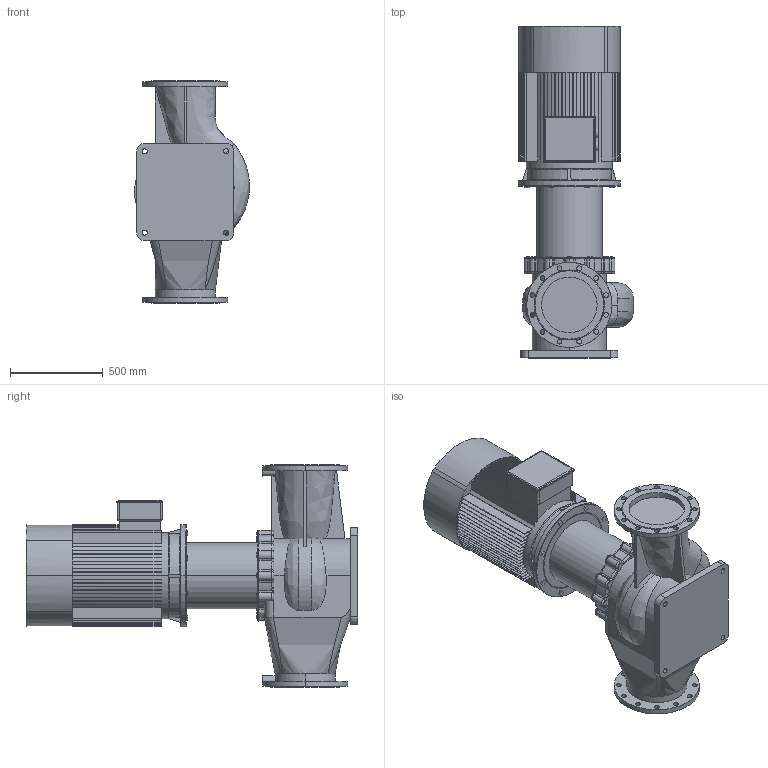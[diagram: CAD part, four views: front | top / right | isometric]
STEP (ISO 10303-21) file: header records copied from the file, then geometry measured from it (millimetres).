
FILE_DESCRIPTION (( 'STEP AP203' ), '1' );
FILE_NAME ('TD300-20_4.STEP', '2022-05-02T18:18:35', ( '' ), ( '' ), 'SwSTEP 2.0', 'SolidWorks 2019', '' );
FILE_SCHEMA (( 'CONFIG_CONTROL_DESIGN' ));
Length unit declared in the file: millimetre
Products named in the file (4): TD300-20_4; Fon_300_TD300-20_4; Pr_ch 300_TD300-20_4; ED_B5_YE2-280S-4 (75)
Assembly tree (3 placements, depth 2):
  TD300-20_4
    Pr_ch 300_TD300-20_4
    Fon_300_TD300-20_4
    ED_B5_YE2-280S-4 (75)
Bounding box: 621.39 x 1792 x 1200 mm (x, y, z)
Volume: 361984003.2 mm3; surface area: 9323777.3 mm2
Topology: 5 solids, 5 shells, 880 faces, 2427 edges, 1596 vertices
Faces by surface type: plane 552, cylinder 239, torus 50, bspline 24, cone 15
Entity records: 36589 total; most frequent: CARTESIAN_POINT 13085, DIRECTION 4896, ORIENTED_EDGE 4846, EDGE_CURVE 2423, AXIS2_PLACEMENT_3D 1724, VERTEX_POINT 1596, LINE 1448, VECTOR 1448
